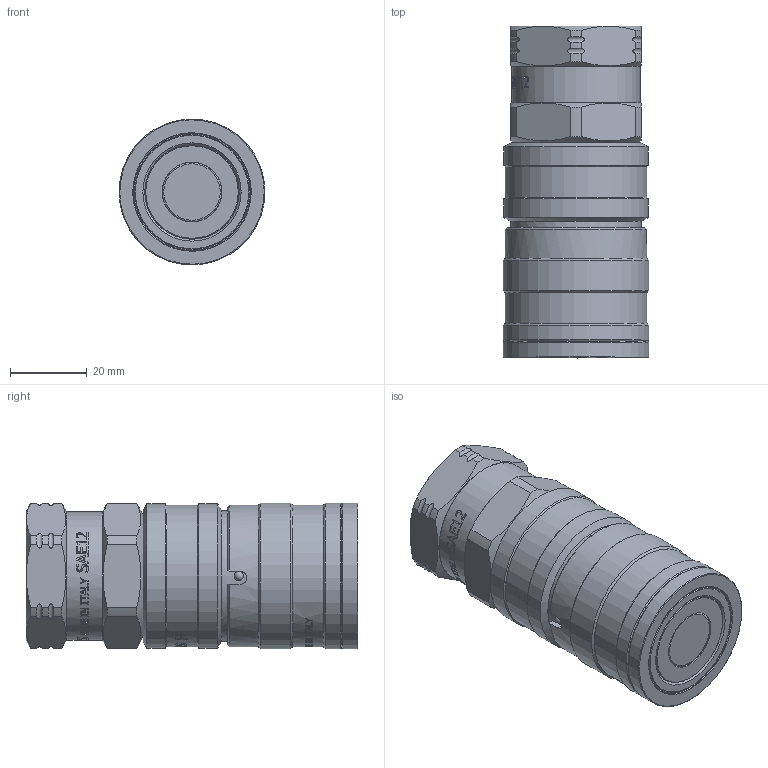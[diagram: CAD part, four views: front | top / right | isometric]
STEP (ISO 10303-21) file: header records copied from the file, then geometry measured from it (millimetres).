
FILE_DESCRIPTION(/* description */ (''),/* implementation_level */ '2;1');
FILE_NAME(/* name */ 'NC06S040000.stp',/* time_stamp */ '2024-11-22T14:59:17+01:00',/* author */ ('thomas.belotti'),/* organization */ (''),/* preprocessor_version */ 'ST-DEVELOPER v20',/* originating_system */ 'Autodesk Inventor 2024',/* authorisation */ '');
FILE_SCHEMA (('AUTOMOTIVE_DESIGN { 1 0 10303 214 3 1 1 }'));
Products named in the file (1): Parte8
Bounding box: 38.09 x 86.56 x 38.09 mm (x, y, z)
Volume: 79808.7 mm3; surface area: 14988.8 mm2
Topology: 1 solids, 1 shells, 1618 faces, 4618 edges, 3066 vertices
Faces by surface type: bspline 1121, plane 337, cylinder 121, cone 21, torus 16, sphere 2
Full cylindrical faces by diameter (mm): 15.6 x1, 24.55 x1, 24.65 x1, 24.91 x1, 30 x1, 30.55 x1, 32 x1, 32.3 x1, 33.5 x1, 34.104 x1, 37 x3, 37.7 x2, 38.1 x3
Entity records: 71048 total; most frequent: CARTESIAN_POINT 34999, ORIENTED_EDGE 9228, EDGE_CURVE 4614, DIRECTION 3578, VERTEX_POINT 3066, B_SPLINE_CURVE_WITH_KNOTS 2441, LINE 1708, VECTOR 1708
